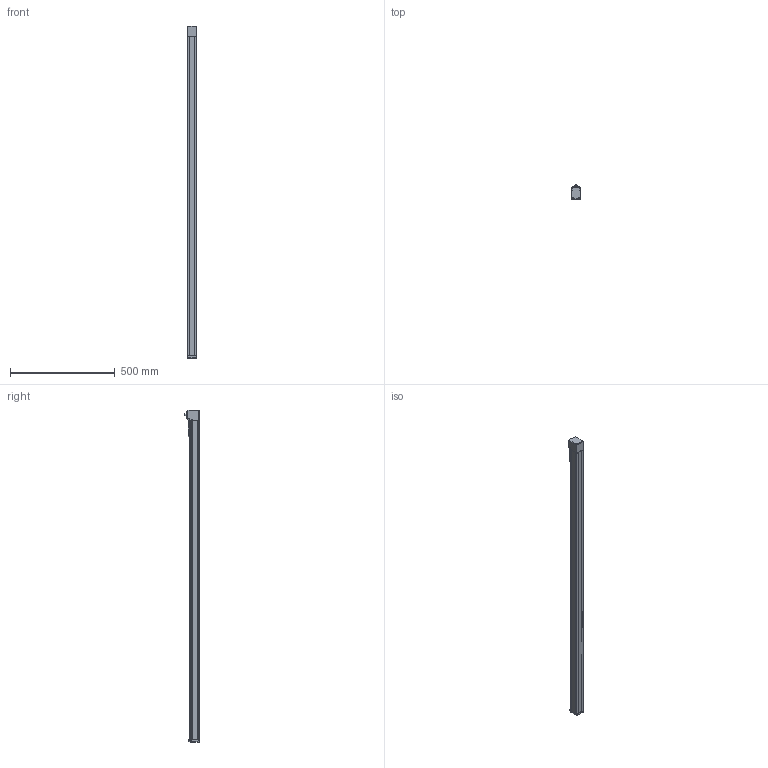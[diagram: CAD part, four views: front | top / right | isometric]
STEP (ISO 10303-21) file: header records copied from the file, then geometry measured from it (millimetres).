
FILE_DESCRIPTION(/* description */ ('STEP AP203'),/* implementation_level */ '2;1');
FILE_NAME(/* name */ 'MGTB 45 1400(0)',/* time_stamp */ '2023-04-17T14:34:10+02:00',/* author */ ('License CC BY-ND 4.0'),/* organization */ ('CADENAS'),/* preprocessor_version */ 'ST-DEVELOPER v19.3',/* originating_system */ 'PARTsolutions',/* authorisation */ ' ');
FILE_SCHEMA (('CONFIG_CONTROL_DESIGN'));
Length unit declared in the file: millimetre
Products named in the file (6): MGTB 45 1400(0); MGTB 45 1400_protection_strip; MGTB 45_carriage; MGTB 45_end_block; MGTB 45 1400_profile; MGTB 45_drive_block
Assembly tree (5 placements, depth 2):
  MGTB 45 1400(0)
    MGTB 45 1400_protection_strip
    MGTB 45_carriage
    MGTB 45_end_block
    MGTB 45 1400_profile
    MGTB 45_drive_block
Bounding box: 45 x 70.85 x 1583 mm (x, y, z)
Volume: 3065691.3 mm3; surface area: 468149.4 mm2
Topology: 5 solids, 5 shells, 689 faces, 1789 edges, 1148 vertices
Faces by surface type: plane 324, cylinder 173, cone 95, bspline 68, torus 27, sphere 2
Full cylindrical faces by diameter (mm): 1.755 x4, 2.459 x10, 2.5 x6, 3 x6, 3.242 x8, 3.8 x6, 4 x2, 4.5 x2, 5.5 x4, 6.5 x4, 8 x1, 11 x3, 12 x1, 17.12 x1, 17.5 x1, 22.5 x1, 22.88 x1, 24.5 x1, 28 x1, 34 x2
Entity records: 25091 total; most frequent: CARTESIAN_POINT 4283, DIRECTION 3440, ORIENTED_EDGE 3206, EDGE_CURVE 1603, AXIS2_PLACEMENT_3D 1244, VERTEX_POINT 1133, LINE 952, VECTOR 952
